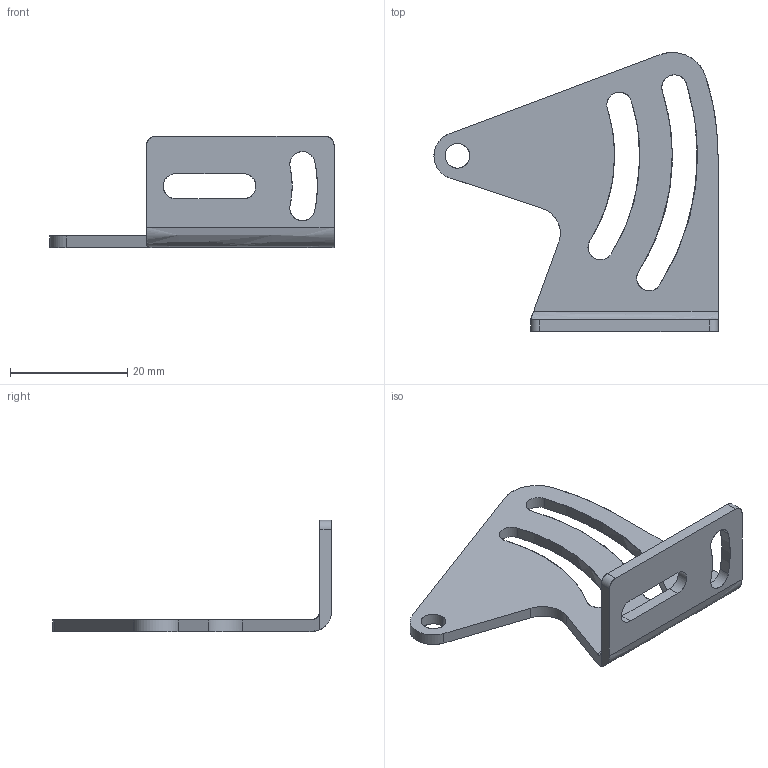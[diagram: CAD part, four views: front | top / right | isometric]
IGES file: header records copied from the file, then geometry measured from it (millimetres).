
Global section: file name: H:\1530065.igs; native system: AutoCAD-17.2s (LMS Tech) (Microsoft Windows NT Version 5.1 (x86)); preprocessor: Autodesk IGES Translator Mechanical Desktop 2009 (Jun 25 2008) from Autodesk, Inc.; date: 20101104.121300; units: millimetre
Bounding box: 48.5 x 47.63 x 19 mm (x, y, z)
Surface area: 4112.1 mm2 (no closed solid volume)
Topology: 0 solids, 0 shells, 43 faces, 521 edges, 521 vertices
Faces by surface type: bspline 43
